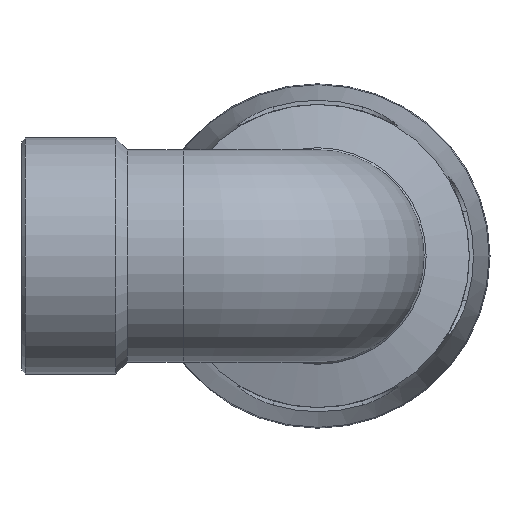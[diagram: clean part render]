
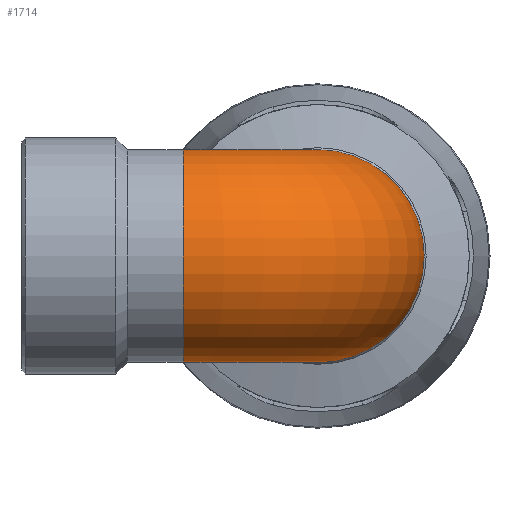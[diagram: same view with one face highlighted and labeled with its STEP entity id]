
A CAD part, left-side view. The second image highlights one B-rep face of the part: STEP entity #1714.
In plain terms, the highlighted toroidal (fillet/blend) face has major radius 33.204 mm and minor radius 26.234 mm.
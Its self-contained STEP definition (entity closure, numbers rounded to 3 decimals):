
#356=FACE_BOUND('',#509,.T.);
#384=FACE_OUTER_BOUND('',#508,.T.);
#508=EDGE_LOOP('',(#1160));
#509=EDGE_LOOP('',(#1161));
#615=CIRCLE('',#1814,26.234);
#621=CIRCLE('',#1824,26.234);
#710=VERTEX_POINT('',#2509);
#716=VERTEX_POINT('',#2525);
#869=EDGE_CURVE('',#710,#710,#615,.T.);
#875=EDGE_CURVE('',#716,#716,#621,.T.);
#1160=ORIENTED_EDGE('',*,*,#869,.F.);
#1161=ORIENTED_EDGE('',*,*,#875,.T.);
#1586=TOROIDAL_SURFACE('',#1868,33.204,26.234);
#1714=ADVANCED_FACE('',(#384,#356),#1586,.T.);
#1814=AXIS2_PLACEMENT_3D('',#2510,#2025,#2026);
#1824=AXIS2_PLACEMENT_3D('',#2526,#2045,#2046);
#1868=AXIS2_PLACEMENT_3D('',#2604,#2133,#2134);
#2025=DIRECTION('center_axis',(1.,0.,0.));
#2026=DIRECTION('ref_axis',(0.,-1.,0.));
#2045=DIRECTION('center_axis',(0.,-1.,0.));
#2046=DIRECTION('ref_axis',(-1.,0.,0.));
#2133=DIRECTION('center_axis',(0.,0.,1.));
#2134=DIRECTION('ref_axis',(1.,0.,0.));
#2509=CARTESIAN_POINT('',(33.204,26.234,0.));
#2510=CARTESIAN_POINT('Origin',(33.204,0.,0.));
#2525=CARTESIAN_POINT('',(26.234,33.204,0.));
#2526=CARTESIAN_POINT('Origin',(0.,33.204,0.));
#2604=CARTESIAN_POINT('Origin',(33.204,33.204,0.));
